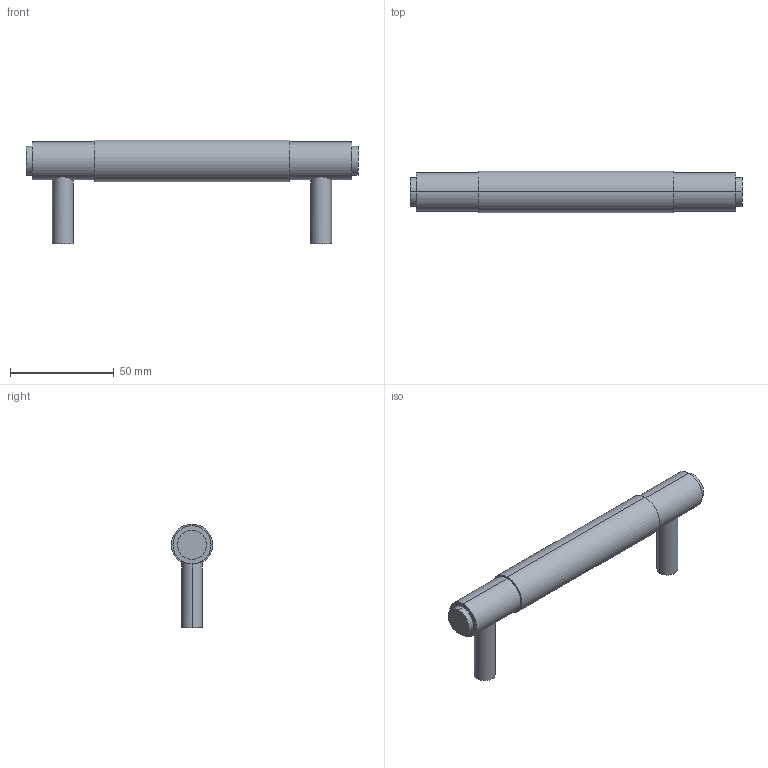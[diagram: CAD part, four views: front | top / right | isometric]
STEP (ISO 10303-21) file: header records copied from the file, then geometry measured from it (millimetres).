
FILE_DESCRIPTION (( 'STEP AP203' ), '1' );
FILE_NAME ('Pull Bar 200, 300, 400, 800 Configurations.STEP', '2016-10-12T13:55:14', ( '' ), ( '' ), 'SwSTEP 2.0', 'SolidWorks 2014', '' );
FILE_SCHEMA (( 'CONFIG_CONTROL_DESIGN' ));
Length unit declared in the file: millimetre
Products named in the file (1): Pull Bar 200, 300, 400, 800 Configurations
Bounding box: 160 x 20 x 50 mm (x, y, z)
Volume: 51302.3 mm3; surface area: 12240.8 mm2
Topology: 1 solids, 1 shells, 22 faces, 44 edges, 28 vertices
Faces by surface type: cylinder 14, plane 8
Entity records: 797 total; most frequent: CARTESIAN_POINT 243, DIRECTION 110, ORIENTED_EDGE 88, AXIS2_PLACEMENT_3D 47, EDGE_CURVE 44, VERTEX_POINT 28, EDGE_LOOP 26, CIRCLE 24
